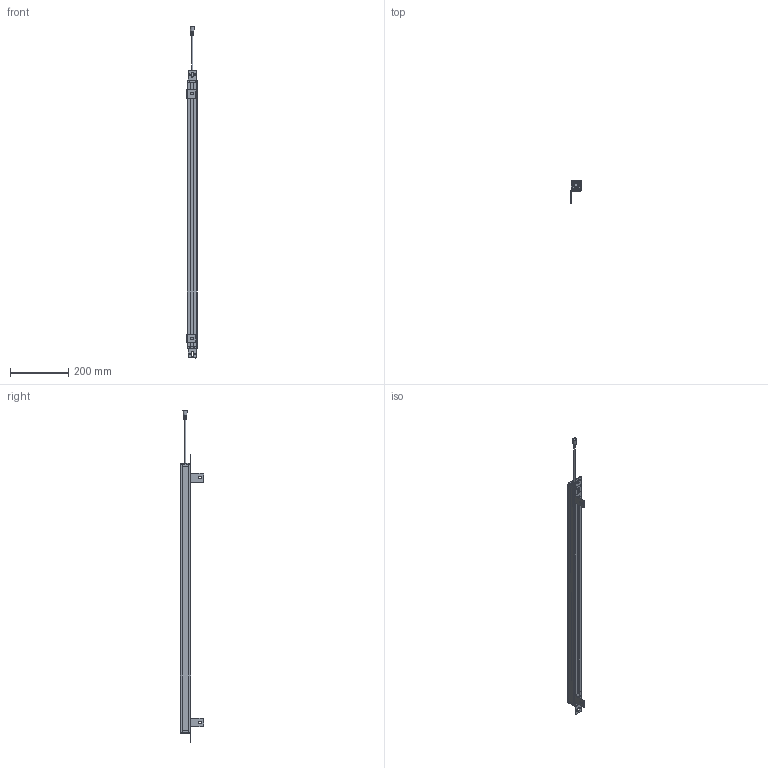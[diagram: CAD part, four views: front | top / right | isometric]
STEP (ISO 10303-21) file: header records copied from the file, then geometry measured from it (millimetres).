
FILE_DESCRIPTION(/* description */ (''),/* implementation_level */ '2;1');
FILE_NAME(/* name */ 'MTD2240.stp',/* time_stamp */ '2023-12-04T16:33:20+08:00',/* author */ (''),/* organization */ (''),/* preprocessor_version */ 'ST-DEVELOPER v16.7',/* originating_system */ 'SIEMENS PLM Software NX 12.0',/* authorisation */ '');
FILE_SCHEMA (('AP203_CONFIGURATION_CONTROLLED_3D_DESIGN_OF_MECHANICAL_PARTS_AND_ASSEMBLIES_MIM_LF { 1 0 10303 403 2 1 2}'));
Length unit declared in the file: millimetre
Products named in the file (1): 1040（35X35__stp
Bounding box: 37 x 80.6 x 1142.01 mm (x, y, z)
Volume: 455353 mm3; surface area: 343850.4 mm2
Topology: 10 solids, 10 shells, 563 faces, 1626 edges, 1096 vertices
Faces by surface type: plane 325, cylinder 202, cone 36
Full cylindrical faces by diameter (mm): 4.4 x1, 9 x1, 12.5 x1
Entity records: 18936 total; most frequent: CARTESIAN_POINT 3339, DIRECTION 3263, ORIENTED_EDGE 3230, EDGE_CURVE 1615, VERTEX_POINT 1092, AXIS2_PLACEMENT_3D 1088, LINE 1087, VECTOR 1087
